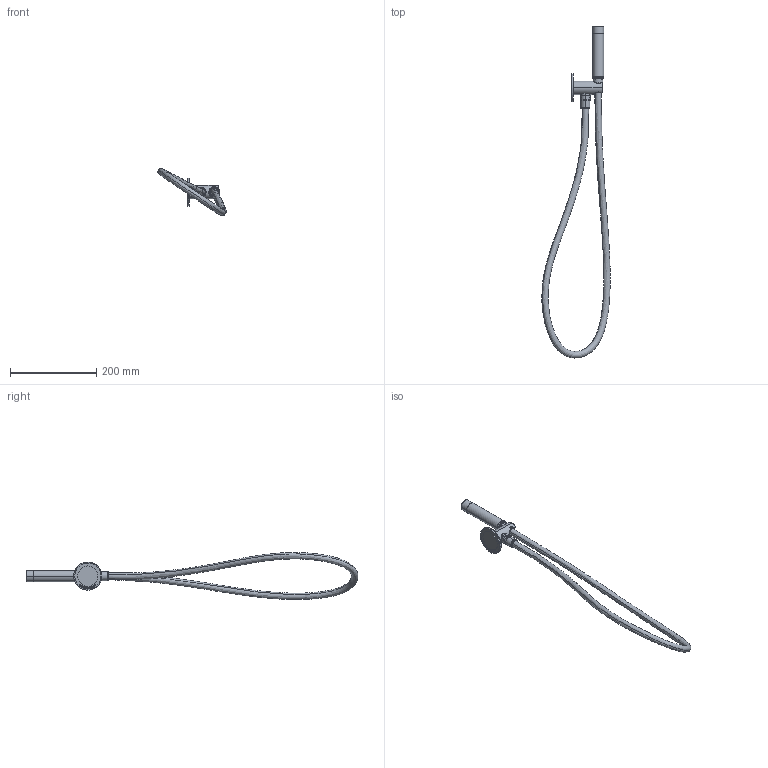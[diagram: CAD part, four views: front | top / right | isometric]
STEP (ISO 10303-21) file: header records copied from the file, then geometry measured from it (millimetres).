
FILE_DESCRIPTION(('STEP AP214'),'2;1');
FILE_NAME('DIS_3D_W242.stp','2024-07-29T16:08:36',(''),(''),'2015.2.119','THINKDESIGN','');
FILE_SCHEMA(('AUTOMOTIVE_DESIGN'));
Length unit declared in the file: millimetre
Products named in the file (1): top
Bounding box: 158.18 x 768.08 x 108.51 mm (x, y, z)
Volume: 358748.6 mm3; surface area: 100941.8 mm2
Topology: 6 solids, 6 shells, 1001 faces, 2760 edges, 1810 vertices
Faces by surface type: plane 768, bspline 134, cylinder 99
Entity records: 64302 total; most frequent: CARTESIAN_POINT 21454, ORIENTED_EDGE 5488, DIRECTION 4555, EDGE_CURVE 2744, VECTOR 2193, LINE 2193, STYLED_ITEM 2008, PRESENTATION_STYLE_ASSIGNMENT 2006
